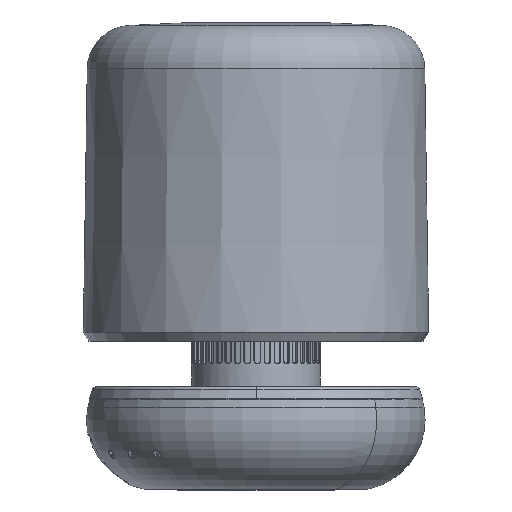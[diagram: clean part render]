
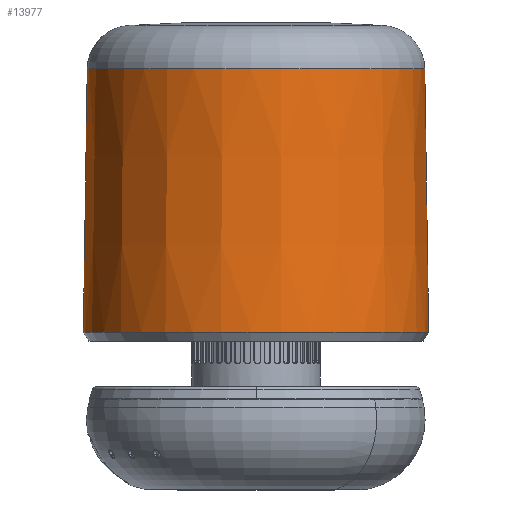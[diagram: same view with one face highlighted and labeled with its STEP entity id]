
A CAD part, front view. The second image highlights one B-rep face of the part: STEP entity #13977.
In plain terms, the highlighted conical face has half-angle 0.842 degrees and reference radius 43 mm.
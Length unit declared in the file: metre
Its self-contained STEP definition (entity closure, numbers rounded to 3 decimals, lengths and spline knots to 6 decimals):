
#388=CONICAL_SURFACE('',#15368,0.043,0.015);
#901=CIRCLE('',#15367,0.042);
#902=CIRCLE('',#15369,0.042963);
#5235=ORIENTED_EDGE('',*,*,#7844,.T.);
#5236=ORIENTED_EDGE('',*,*,#7843,.F.);
#7843=EDGE_CURVE('',#9292,#9292,#901,.F.);
#7844=EDGE_CURVE('',#9293,#9293,#902,.F.);
#9292=VERTEX_POINT('',#32101);
#9293=VERTEX_POINT('',#32104);
#11863=EDGE_LOOP('',(#5235));
#11864=EDGE_LOOP('',(#5236));
#12890=FACE_BOUND('',#11863,.T.);
#12891=FACE_BOUND('',#11864,.T.);
#13977=ADVANCED_FACE('',(#12890,#12891),#388,.T.);
#15367=AXIS2_PLACEMENT_3D('',#32100,#18370,#18371);
#15368=AXIS2_PLACEMENT_3D('',#32102,#18372,#18373);
#15369=AXIS2_PLACEMENT_3D('',#32103,#18374,#18375);
#18370=DIRECTION('',(0.,0.,-1.));
#18371=DIRECTION('',(0.202,0.979,0.));
#18372=DIRECTION('',(0.,0.,-1.));
#18373=DIRECTION('',(0.202,0.979,0.));
#18374=DIRECTION('',(0.,0.,-1.));
#18375=DIRECTION('',(0.202,0.979,0.));
#32100=CARTESIAN_POINT('',(0.,0.,0.104224));
#32101=CARTESIAN_POINT('',(0.008464,0.041138,0.104224));
#32102=CARTESIAN_POINT('',(0.,0.,0.036174));
#32103=CARTESIAN_POINT('',(0.,0.,0.038712));
#32104=CARTESIAN_POINT('',(0.008658,0.042081,0.038712));
